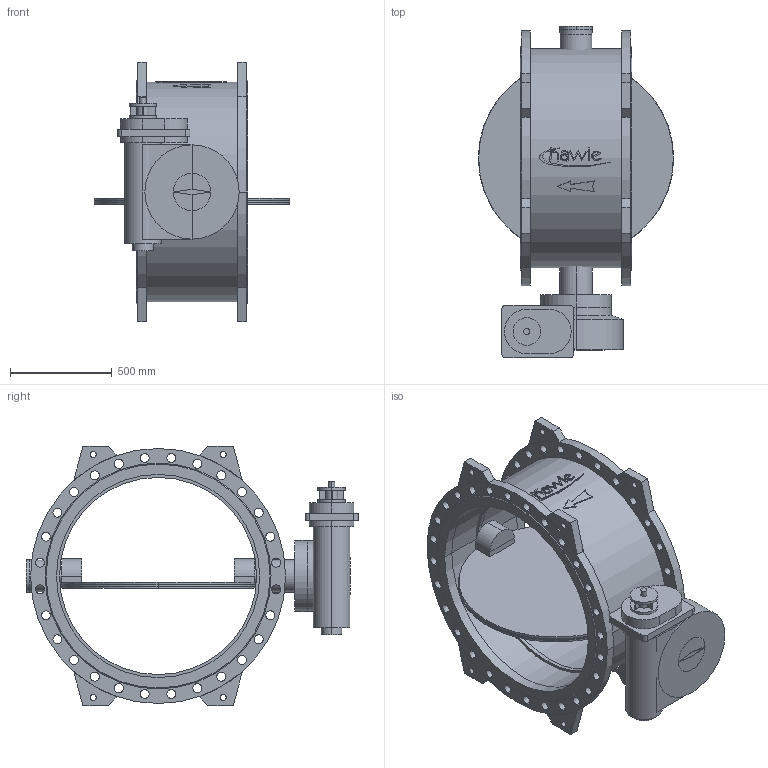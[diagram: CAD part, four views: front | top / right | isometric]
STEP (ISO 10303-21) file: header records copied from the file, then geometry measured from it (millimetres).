
FILE_DESCRIPTION(('STEP AP214'),'1');
FILE_NAME('S:/EK/USER/CAT6/3DHomepage_27-04-2012/neu_08-01-2013/9881K/9881K_PN16_DN1000.STP','2013-03-11T15:52:16',(' '),(' '),'Spatial InterOp 3D',' ',' ');
FILE_SCHEMA(('automotive_design'));
Length unit declared in the file: millimetre
Products named in the file (52): 3D-Objekt
Bounding box: 962 x 1634 x 1276 mm (x, y, z)
Volume: 210600346.1 mm3; surface area: 11687243.1 mm2
Topology: 52 solids, 52 shells, 465 faces, 1074 edges, 716 vertices
Faces by surface type: cylinder 243, plane 214, cone 8
Entity records: 18588 total; most frequent: DIRECTION 2610, CARTESIAN_POINT 2307, ORIENTED_EDGE 2148, EDGE_CURVE 1074, AXIS2_PLACEMENT_3D 1019, VERTEX_POINT 716, EDGE_LOOP 608, LINE 572
